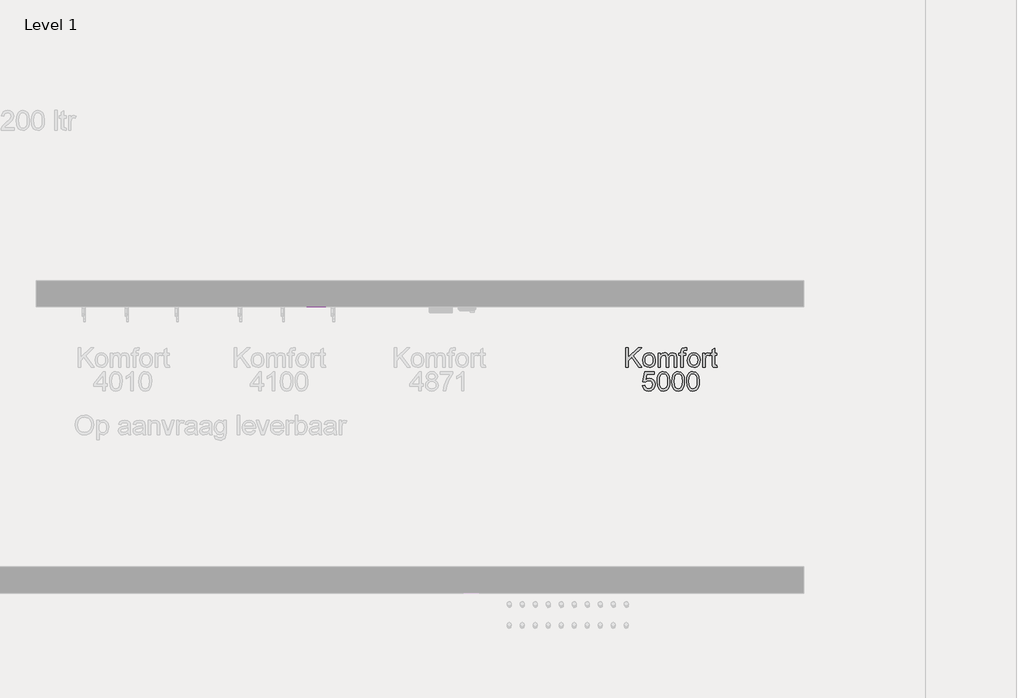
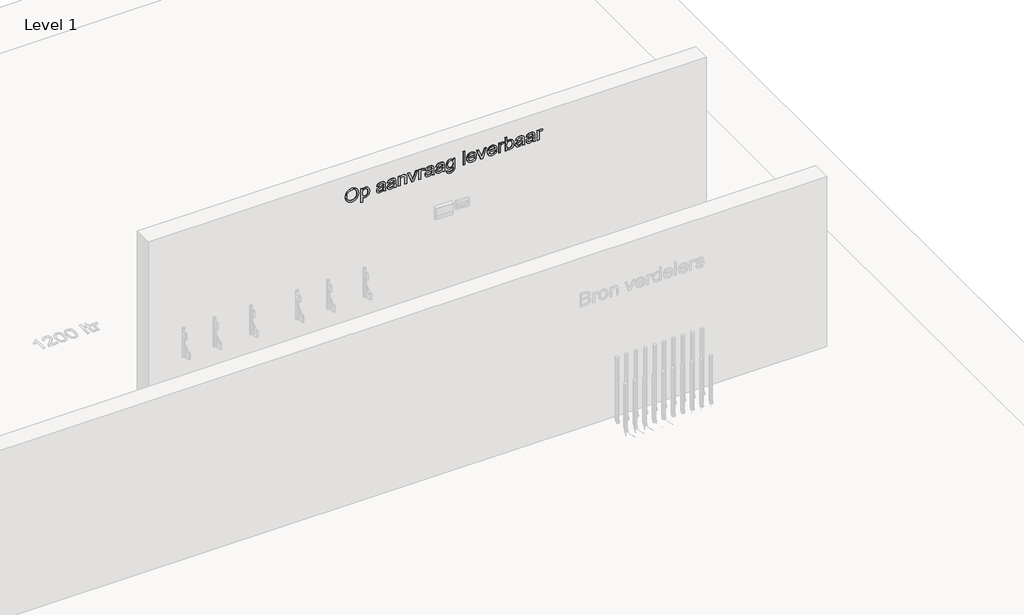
# One storey, part 34 of 34: 2 proxies.
"""IFC4 building model written with IfcOpenShell, lengths in millimetres."""

from ifc_helpers import new_model, si_unit, frame, origin, origin_with_axes, place, context, project, spatial, polyline, outline, extrude, element, save

model = new_model("IFC4")

# Units and contexts
model_context = context("Model", 3, world=origin())
ifc_project = project(units=[si_unit("LENGTHUNIT", "METRE", prefix="MILLI")], contexts=[model_context])

# Site, building, storey
site = spatial("IfcSite", under=ifc_project)
building = spatial("IfcBuilding", under=site)
storey = spatial("IfcBuildingStorey", under=building, Name="Level 1", Elevation=0.0)

# Proxies
placement = place(None, origin())
element("IfcBuildingElementProxy", 1, Name="type", ObjectType="type", at=placement, inside=storey, context=model_context, shape_type="SweptSolid", body=[
    extrude(outline(polyline([(1673.469489, -1023.8485597), (1654.5797655, -1021.7391847), (1636.7086717, -1015.4110597), (1621.1768208, -1004.9903866), (1609.3048256, -990.6033674), (1601.7732751, -973.1334155), (1599.2627583, -953.4639443), (1601.5343929, -934.9347977), (1608.3492967, -917.7127424), (1619.5812679, -903.0282472), (1635.1041044, -892.1117808), (1653.9532631, -885.3374419), (1675.1642006, -883.0793289), (1696.095691, -885.2247616), (1714.6834313, -891.6610597), (1730.1792246, -902.1899058), (1741.8348737, -916.6129828), (1749.1365563, -933.983776), (1751.5704506, -953.3557712), (1746.3871573, -981.6159876), (1730.8372775, -1004.1610597), (1706.1287438, -1018.9266847), (1673.469489, -1023.8485597)]), holes=[polyline([(1673.2892006, -1005.3870212), (1700.9139001, -1001.5378626), (1719.3168448, -989.9903866), (1729.6608953, -973.1063722), (1733.1089121, -953.2475982), (1731.3195491, -938.9552304), (1725.9514602, -926.1502424), (1717.3291645, -915.5357592), (1705.7771813, -907.8149058), (1691.6515804, -903.109377), (1675.3084313, -901.5408674), (1650.8703304, -905.2052304), (1632.7242967, -916.1983193), (1621.4742967, -932.8704948), (1617.7242967, -953.5721174), (1621.438239, -973.976264), (1632.580066, -990.6213962), (1650.1852342, -1001.695615), (1673.2892006, -1005.3870212)])]), frame((0.0, 9784.9863889, 0.0), z_axis=(0.0, 1.0, 0.0), x_axis=(0.0, 0.0, 1.0)), (0.0, 0.0, 1.0), 5.0),
    extrude(outline(polyline([(1560.031989, -860.0024058), (1560.031989, -841.5408674), (1615.9935275, -841.5408674), (1604.0043448, -829.8401462), (1599.2627583, -813.7764443), (1601.0340924, -801.8097977), (1606.3480948, -790.4290885), (1614.9839121, -780.6574539), (1626.720691, -773.5180308), (1640.8417847, -769.1505429), (1656.6305467, -767.6947135), (1685.080066, -772.8509635), (1696.6004987, -779.2512039), (1705.2002583, -788.1394251), (1710.5548256, -799.0558914), (1712.3396813, -811.5408674), (1707.2375179, -828.7764443), (1691.9310275, -841.5408674), (1710.031989, -841.5408674), (1710.031989, -860.0024058), (1560.031989, -860.0024058)]), holes=[polyline([(1654.9358352, -841.5408674), (1671.6801261, -839.4089563), (1683.908191, -833.0132232), (1691.3856549, -823.8500621), (1693.8781429, -813.4158674), (1691.5343929, -803.0222376), (1684.5031429, -794.1971174), (1672.766364, -788.1664683), (1656.3060275, -786.156252), (1639.1335515, -788.2160477), (1627.1353544, -794.3954347), (1620.0770612, -803.4594371), (1617.7242967, -814.1730789), (1619.9959313, -824.7154467), (1626.8108352, -833.5540885), (1638.3853544, -839.5441727), (1654.9358352, -841.5408674)])]), frame((0.0, 9784.9863889, 0.0), z_axis=(0.0, 1.0, 0.0), x_axis=(0.0, 0.0, 1.0)), (0.0, 0.0, 1.0), 5.0),
    extrude(outline(polyline([(1615.4166044, -620.0024058), (1601.5704506, -615.3870212), (1601.5704506, -596.9254828), (1617.0932871, -600.6033674), (1649.1666044, -601.5408674), (1672.1353544, -601.5408674), (1688.2892006, -602.4423097), (1700.8192487, -608.1033674), (1709.0584313, -620.7415885), (1712.3396813, -643.1153866), (1708.625739, -667.4723578), (1698.0608352, -683.5540885), (1680.031989, -691.5408674), (1677.7242967, -673.0793289), (1690.3264602, -664.1730789), (1693.8781429, -645.4951943), (1692.5440083, -633.6141847), (1688.5416044, -625.0865405), (1683.1509794, -621.2734395), (1674.9117967, -620.0024058), (1670.8012198, -620.1105789), (1664.455066, -652.1298097), (1661.6786237, -668.1033674), (1655.6209313, -681.0300501), (1645.0199698, -690.3149058), (1630.4166044, -693.8485597), (1618.0037438, -691.5093169), (1608.0247775, -684.4915885), (1601.4532631, -673.1108794), (1599.2627583, -657.6826943), (1602.9045852, -637.9050501), (1615.4166044, -620.0024058)]), holes=[polyline([(1652.3396813, -620.0024058), (1647.111316, -620.1105789), (1632.8324698, -623.031252), (1622.141364, -635.0745212), (1617.7242967, -653.7524058), (1621.7267006, -669.8882232), (1631.7146813, -675.3870212), (1638.8180467, -672.8629828), (1643.6858352, -665.6694732), (1646.6786237, -649.7860597), (1652.3396813, -620.0024058)])]), frame((0.0, 9784.9863889, 0.0), z_axis=(0.0, 1.0, 0.0), x_axis=(0.0, 0.0, 1.0)), (0.0, 0.0, 1.0), 5.0),
    extrude(outline(polyline([(1615.4166044, -506.9254828), (1601.5704506, -502.3100982), (1601.5704506, -483.8485597), (1617.0932871, -487.5264443), (1649.1666044, -488.4639443), (1672.1353544, -488.4639443), (1688.2892006, -489.3653866), (1700.8192487, -495.0264443), (1709.0584313, -507.6646655), (1712.3396813, -530.0384635), (1708.625739, -554.3954347), (1698.0608352, -570.4771655), (1680.031989, -578.4639443), (1677.7242967, -560.0024058), (1690.3264602, -551.0961558), (1693.8781429, -532.4182712), (1692.5440083, -520.5372616), (1688.5416044, -512.0096174), (1683.1509794, -508.1965164), (1674.9117967, -506.9254828), (1670.8012198, -507.0336558), (1664.455066, -539.0528866), (1661.6786237, -555.0264443), (1655.6209313, -567.953127), (1645.0199698, -577.2379828), (1630.4166044, -580.7716366), (1618.0037438, -578.4323938), (1608.0247775, -571.4146655), (1601.4532631, -560.0339563), (1599.2627583, -544.6057712), (1602.9045852, -524.828127), (1615.4166044, -506.9254828)]), holes=[polyline([(1652.3396813, -506.9254828), (1647.111316, -507.0336558), (1632.8324698, -509.9543289), (1622.141364, -521.9975982), (1617.7242967, -540.6754828), (1621.7267006, -556.8113001), (1631.7146813, -562.3100982), (1638.8180467, -559.7860597), (1643.6858352, -552.5925501), (1646.6786237, -536.7091366), (1652.3396813, -506.9254828)])]), frame((0.0, 9784.9863889, 0.0), z_axis=(0.0, 1.0, 0.0), x_axis=(0.0, 0.0, 1.0)), (0.0, 0.0, 1.0), 5.0),
    extrude(outline(polyline([(1601.5704506, -463.0793289), (1601.5704506, -444.6177905), (1659.1185275, -444.6177905), (1676.1287438, -442.5129227), (1686.6305467, -436.1983193), (1692.0662438, -426.9810717), (1693.8781429, -416.1682712), (1690.6509794, -403.4939924), (1682.0151621, -395.9759635), (1665.6810275, -393.8485597), (1601.5704506, -393.8485597), (1601.5704506, -375.3870212), (1668.1690083, -375.3870212), (1686.017566, -376.3605789), (1699.5932871, -381.8954347), (1708.8240563, -393.7944732), (1712.3396813, -411.2283674), (1707.9767006, -430.5012039), (1694.8877583, -444.6177905), (1710.031989, -444.6177905), (1710.031989, -463.0793289), (1601.5704506, -463.0793289)])), frame((0.0, 9784.9863889, 0.0), z_axis=(0.0, 1.0, 0.0), x_axis=(0.0, 0.0, 1.0)), (0.0, 0.0, 1.0), 5.0),
    extrude(outline(polyline([(1601.5704506, -323.3918289), (1601.5704506, -299.9903866), (1710.031989, -262.3100982), (1710.031989, -281.8533674), (1643.830066, -305.1105789), (1623.205066, -311.9254828), (1645.0560275, -318.8846174), (1710.031989, -341.9975982), (1710.031989, -361.5408674), (1601.5704506, -323.3918289)])), frame((0.0, 9784.9863889, 0.0), z_axis=(0.0, 1.0, 0.0), x_axis=(0.0, 0.0, 1.0)), (0.0, 0.0, 1.0), 5.0),
    extrude(outline(polyline([(1601.5704506, -246.156252), (1601.5704506, -227.6947135), (1658.5776621, -227.6947135), (1680.1401621, -224.7019251), (1690.236316, -218.0492808), (1693.8781429, -207.6105789), (1690.0920852, -194.6298097), (1706.642566, -188.4639443), (1712.3396813, -206.9975982), (1708.7699698, -218.5360597), (1693.986316, -230.0024058), (1710.031989, -230.0024058), (1710.031989, -246.156252), (1601.5704506, -246.156252)])), frame((0.0, 9784.9863889, 0.0), z_axis=(0.0, 1.0, 0.0), x_axis=(0.0, 0.0, 1.0)), (0.0, 0.0, 1.0), 5.0),
    extrude(outline(polyline([(1615.4166044, -107.6947135), (1601.5704506, -103.0793289), (1601.5704506, -84.6177905), (1617.0932871, -88.2956751), (1649.1666044, -89.2331751), (1672.1353544, -89.2331751), (1688.2892006, -90.1346174), (1700.8192487, -95.7956751), (1709.0584313, -108.4338962), (1712.3396813, -130.8076943), (1708.625739, -155.1646655), (1698.0608352, -171.2463962), (1680.031989, -179.2331751), (1677.7242967, -160.7716366), (1690.3264602, -151.8653866), (1693.8781429, -133.187502), (1692.5440083, -121.3064924), (1688.5416044, -112.7788482), (1683.1509794, -108.9657472), (1674.9117967, -107.6947135), (1670.8012198, -107.8028866), (1664.455066, -139.8221174), (1661.6786237, -155.7956751), (1655.6209313, -168.7223578), (1645.0199698, -178.0072135), (1630.4166044, -181.5408674), (1618.0037438, -179.2016246), (1608.0247775, -172.1838962), (1601.4532631, -160.8031871), (1599.2627583, -145.375002), (1602.9045852, -125.5973578), (1615.4166044, -107.6947135)]), holes=[polyline([(1652.3396813, -107.6947135), (1647.111316, -107.8028866), (1632.8324698, -110.7235597), (1622.141364, -122.7668289), (1617.7242967, -141.4447135), (1621.7267006, -157.5805308), (1631.7146813, -163.0793289), (1638.8180467, -160.5552905), (1643.6858352, -153.3617808), (1646.6786237, -137.4783674), (1652.3396813, -107.6947135)])]), frame((0.0, 9784.9863889, 0.0), z_axis=(0.0, 1.0, 0.0), x_axis=(0.0, 0.0, 1.0)), (0.0, 0.0, 1.0), 5.0),
    extrude(outline(polyline([(1615.4166044, 5.3822095), (1601.5704506, 9.9975942), (1601.5704506, 28.4591326), (1617.0932871, 24.781248), (1649.1666044, 23.843748), (1672.1353544, 23.843748), (1688.2892006, 22.9423057), (1700.8192487, 17.281248), (1709.0584313, 4.6430268), (1712.3396813, -17.7307712), (1708.625739, -42.0877424), (1698.0608352, -58.1694732), (1680.031989, -66.156252), (1677.7242967, -47.6947135), (1690.3264602, -38.7884635), (1693.8781429, -20.1105789), (1692.5440083, -8.2295693), (1688.5416044, 0.2980749), (1683.1509794, 4.1111759), (1674.9117967, 5.3822095), (1670.8012198, 5.2740365), (1664.455066, -26.7451943), (1661.6786237, -42.718752), (1655.6209313, -55.6454347), (1645.0199698, -64.9302905), (1630.4166044, -68.4639443), (1618.0037438, -66.1247015), (1608.0247775, -59.1069732), (1601.4532631, -47.726264), (1599.2627583, -32.2980789), (1602.9045852, -12.5204347), (1615.4166044, 5.3822095)]), holes=[polyline([(1652.3396813, 5.3822095), (1647.111316, 5.2740365), (1632.8324698, 2.3533634), (1622.141364, -9.6899058), (1617.7242967, -28.3677905), (1621.7267006, -44.5036078), (1631.7146813, -50.0024058), (1638.8180467, -47.4783674), (1643.6858352, -40.2848578), (1646.6786237, -24.4014443), (1652.3396813, 5.3822095)])]), frame((0.0, 9784.9863889, 0.0), z_axis=(0.0, 1.0, 0.0), x_axis=(0.0, 0.0, 1.0)), (0.0, 0.0, 1.0), 5.0),
    extrude(outline(polyline([(1592.3396813, 44.6129788), (1577.1729145, 47.2406831), (1566.360114, 55.9170653), (1559.8832511, 69.4432071), (1557.7242967, 86.6201903), (1559.2567487, 101.3632793), (1563.8541044, 113.5733153), (1571.0881789, 123.0429668), (1580.5307871, 129.5649018), (1594.7690684, 133.3509595), (1616.3901621, 134.6129788), (1710.031989, 134.6129788), (1710.031989, 116.1514403), (1696.1858352, 116.1514403), (1708.3012198, 102.8731951), (1712.3396813, 86.4038442), (1710.5548256, 73.7611158), (1705.2002583, 62.8761999), (1696.5689482, 54.0510797), (1684.953864, 47.5877384), (1656.3420852, 42.3052865), (1635.4105948, 45.2484956), (1617.688239, 54.078123), (1605.5998977, 68.2713321), (1601.5704506, 87.3052865), (1605.031989, 103.1526422), (1615.4166044, 116.1514403), (1593.8901621, 114.8894211), (1580.8372775, 105.874998), (1576.1858352, 86.9807672), (1580.2964121, 69.0600942), (1590.031989, 63.0745172), (1592.3396813, 44.6129788)]), holes=[polyline([(1657.6041044, 60.7668249), (1673.383852, 62.7635196), (1684.7375179, 68.7536038), (1691.5929866, 77.5922456), (1693.8781429, 88.1346134), (1691.5569289, 98.8707913), (1684.5932871, 107.9302865), (1673.0683472, 114.0961518), (1657.063239, 116.1514403), (1640.4676862, 114.1547456), (1628.9742967, 108.1646615), (1622.267566, 99.2358754), (1620.031989, 88.4230749), (1622.2810876, 77.5291446), (1629.0283833, 68.6454307), (1640.6705107, 62.7364764), (1657.6041044, 60.7668249)])]), frame((0.0, 9784.9863889, 0.0), z_axis=(0.0, 1.0, 0.0), x_axis=(0.0, 0.0, 1.0)), (0.0, 0.0, 1.0), 5.0),
    extrude(outline(polyline([(238.4591326, 9784.9863889), (219.9975942, 9784.9863889), (219.9975942, 9789.9863889), (238.4591326, 9789.9863889), (238.4591326, 9784.9863889)])), frame((0.0, 0.0, 1601.5704506), z_axis=(0.0, 0.0, 1.0), x_axis=(1.0, 0.0, 0.0)), (0.0, 0.0, 1.0), 147.6923077),
    extrude(outline(polyline([(1633.8781429, 342.0889403), (1621.5824698, 330.1899018), (1617.7242967, 312.0889403), (1619.8066285, 299.0225341), (1626.0536237, 288.3088922), (1636.2128785, 280.8855148), (1650.031989, 277.6899018), (1650.031989, 360.6586518), (1655.0079506, 360.7668249), (1679.2116765, 357.2647216), (1697.3036237, 346.7584115), (1708.5806669, 330.7352744), (1712.3396813, 310.6826903), (1708.5716525, 289.9855749), (1697.267566, 273.5432672), (1679.1395612, 262.8070893), (1654.8997775, 259.2283634), (1631.4487559, 262.7710317), (1613.8841525, 273.3990365), (1602.9181068, 290.0667047), (1599.2627583, 311.7283634), (1601.3811477, 329.2028225), (1607.736316, 343.2608153), (1617.9316285, 353.6679668), (1631.5704506, 360.1899018), (1633.8781429, 342.0889403)]), holes=[polyline([(1668.4935275, 277.6899018), (1678.9006789, 280.7232552), (1686.9730948, 287.8761999), (1692.1518809, 298.1661639), (1693.8781429, 310.6105749), (1691.7146813, 324.1502384), (1685.2242967, 334.9134595), (1678.2471333, 339.8082913), (1668.4935275, 342.3052865), (1668.4935275, 277.6899018)])]), frame((0.0, 9784.9863889, 0.0), z_axis=(0.0, 1.0, 0.0), x_axis=(0.0, 0.0, 1.0)), (0.0, 0.0, 1.0), 5.0),
    extrude(outline(polyline([(1601.5704506, 405.8389403), (1601.5704506, 429.2403826), (1710.031989, 466.9206711), (1710.031989, 447.3774018), (1643.830066, 424.1201903), (1623.205066, 417.3052865), (1645.0560275, 410.3461518), (1710.031989, 387.2331711), (1710.031989, 367.6899018), (1601.5704506, 405.8389403)])), frame((0.0, 9784.9863889, 0.0), z_axis=(0.0, 1.0, 0.0), x_axis=(0.0, 0.0, 1.0)), (0.0, 0.0, 1.0), 5.0),
    extrude(outline(polyline([(1633.8781429, 559.0120172), (1621.5824698, 547.1129788), (1617.7242967, 529.0120172), (1619.8066285, 515.945611), (1626.0536237, 505.2319692), (1636.2128785, 497.8085918), (1650.031989, 494.6129788), (1650.031989, 577.5817288), (1655.0079506, 577.6899018), (1679.2116765, 574.1877985), (1697.3036237, 563.6814884), (1708.5806669, 547.6583514), (1712.3396813, 527.6057672), (1708.5716525, 506.9086518), (1697.267566, 490.4663442), (1679.1395612, 479.7301663), (1654.8997775, 476.1514403), (1631.4487559, 479.6941086), (1613.8841525, 490.3221134), (1602.9181068, 506.9897817), (1599.2627583, 528.6514403), (1601.3811477, 546.1258994), (1607.736316, 560.1838922), (1617.9316285, 570.5910437), (1631.5704506, 577.1129788), (1633.8781429, 559.0120172)]), holes=[polyline([(1668.4935275, 494.6129788), (1678.9006789, 497.6463321), (1686.9730948, 504.7992768), (1692.1518809, 515.0892408), (1693.8781429, 527.5336518), (1691.7146813, 541.0733153), (1685.2242967, 551.8365365), (1678.2471333, 556.7313682), (1668.4935275, 559.2283634), (1668.4935275, 494.6129788)])]), frame((0.0, 9784.9863889, 0.0), z_axis=(0.0, 1.0, 0.0), x_axis=(0.0, 0.0, 1.0)), (0.0, 0.0, 1.0), 5.0),
    extrude(outline(polyline([(1601.5704506, 596.1514403), (1601.5704506, 614.6129788), (1658.5776621, 614.6129788), (1680.1401621, 617.6057672), (1690.236316, 624.2584115), (1693.8781429, 634.6971134), (1690.0920852, 647.6778826), (1706.642566, 653.843748), (1712.3396813, 635.3100942), (1708.7699698, 623.7716326), (1693.986316, 612.3052865), (1710.031989, 612.3052865), (1710.031989, 596.1514403), (1601.5704506, 596.1514403)])), frame((0.0, 9784.9863889, 0.0), z_axis=(0.0, 1.0, 0.0), x_axis=(0.0, 0.0, 1.0)), (0.0, 0.0, 1.0), 5.0),
    extrude(outline(polyline([(1601.5704506, 683.843748), (1618.8420852, 683.843748), (1604.15759, 696.3106951), (1599.2627583, 712.7259595), (1603.0578304, 729.929986), (1614.4430467, 744.4747576), (1632.7783833, 754.3861158), (1657.423816, 757.6899018), (1679.4370371, 754.4987961), (1697.0151621, 745.6826903), (1708.3192487, 731.3317288), (1712.3396813, 712.8341326), (1707.8775419, 696.7704307), (1694.4911237, 683.843748), (1749.2627583, 683.843748), (1749.2627583, 665.3822095), (1601.5704506, 665.3822095), (1601.5704506, 683.843748)]), holes=[polyline([(1656.5584313, 683.843748), (1672.5590323, 685.9260797), (1684.2867967, 692.1730749), (1691.4803063, 701.2776422), (1693.8781429, 711.9326903), (1691.5614362, 722.4209716), (1684.611316, 731.2415845), (1672.8024217, 737.2316687), (1655.9093929, 739.2283634), (1639.2597535, 737.1460317), (1627.3156429, 730.8990365), (1620.1221333, 721.7944692), (1617.7242967, 711.1394211), (1620.9785035, 698.5643009), (1630.7411237, 688.8918249), (1641.1617967, 685.1057672), (1656.5584313, 683.843748)])]), frame((0.0, 9784.9863889, 0.0), z_axis=(0.0, 1.0, 0.0), x_axis=(0.0, 0.0, 1.0)), (0.0, 0.0, 1.0), 5.0),
    extrude(outline(polyline([(1615.4166044, 847.6899018), (1601.5704506, 852.3052865), (1601.5704506, 870.7668249), (1617.0932871, 867.0889403), (1649.1666044, 866.1514403), (1672.1353544, 866.1514403), (1688.2892006, 865.249998), (1700.8192487, 859.5889403), (1709.0584313, 846.9507192), (1712.3396813, 824.5769211), (1708.625739, 800.2199499), (1698.0608352, 784.1382192), (1680.031989, 776.1514403), (1677.7242967, 794.6129788), (1690.3264602, 803.5192288), (1693.8781429, 822.1971134), (1692.5440083, 834.078123), (1688.5416044, 842.6057672), (1683.1509794, 846.4188682), (1674.9117967, 847.6899018), (1670.8012198, 847.5817288), (1664.455066, 815.562498), (1661.6786237, 799.5889403), (1655.6209313, 786.6622576), (1645.0199698, 777.3774018), (1630.4166044, 773.843748), (1618.0037438, 776.1829908), (1608.0247775, 783.2007192), (1601.4532631, 794.5814283), (1599.2627583, 810.0096134), (1602.9045852, 829.7872576), (1615.4166044, 847.6899018)]), holes=[polyline([(1652.3396813, 847.6899018), (1647.111316, 847.5817288), (1632.8324698, 844.6610557), (1622.141364, 832.6177865), (1617.7242967, 813.9399018), (1621.7267006, 797.8040845), (1631.7146813, 792.3052865), (1638.8180467, 794.8293249), (1643.6858352, 802.0228345), (1646.6786237, 817.906248), (1652.3396813, 847.6899018)])]), frame((0.0, 9784.9863889, 0.0), z_axis=(0.0, 1.0, 0.0), x_axis=(0.0, 0.0, 1.0)), (0.0, 0.0, 1.0), 5.0),
    extrude(outline(polyline([(1615.4166044, 960.7668249), (1601.5704506, 965.3822095), (1601.5704506, 983.843748), (1617.0932871, 980.1658634), (1649.1666044, 979.2283634), (1672.1353544, 979.2283634), (1688.2892006, 978.3269211), (1700.8192487, 972.6658634), (1709.0584313, 960.0276422), (1712.3396813, 937.6538442), (1708.625739, 913.296873), (1698.0608352, 897.2151422), (1680.031989, 889.2283634), (1677.7242967, 907.6899018), (1690.3264602, 916.5961518), (1693.8781429, 935.2740365), (1692.5440083, 947.1550461), (1688.5416044, 955.6826903), (1683.1509794, 959.4957913), (1674.9117967, 960.7668249), (1670.8012198, 960.6586518), (1664.455066, 928.6394211), (1661.6786237, 912.6658634), (1655.6209313, 899.7391807), (1645.0199698, 890.4543249), (1630.4166044, 886.9206711), (1618.0037438, 889.2599139), (1608.0247775, 896.2776422), (1601.4532631, 907.6583514), (1599.2627583, 923.0865365), (1602.9045852, 942.8641807), (1615.4166044, 960.7668249)]), holes=[polyline([(1652.3396813, 960.7668249), (1647.111316, 960.6586518), (1632.8324698, 957.7379788), (1622.141364, 945.6947095), (1617.7242967, 927.0168249), (1621.7267006, 910.8810076), (1631.7146813, 905.3822095), (1638.8180467, 907.906248), (1643.6858352, 915.0997576), (1646.6786237, 930.9831711), (1652.3396813, 960.7668249)])]), frame((0.0, 9784.9863889, 0.0), z_axis=(0.0, 1.0, 0.0), x_axis=(0.0, 0.0, 1.0)), (0.0, 0.0, 1.0), 5.0),
    extrude(outline(polyline([(1601.5704506, 1004.6129788), (1601.5704506, 1023.0745172), (1658.5776621, 1023.0745172), (1680.1401621, 1026.0673057), (1690.236316, 1032.7199499), (1693.8781429, 1043.1586518), (1690.0920852, 1056.1394211), (1706.642566, 1062.3052865), (1712.3396813, 1043.7716326), (1708.7699698, 1032.2331711), (1693.986316, 1020.7668249), (1710.031989, 1020.7668249), (1710.031989, 1004.6129788), (1601.5704506, 1004.6129788)])), frame((0.0, 9784.9863889, 0.0), z_axis=(0.0, 1.0, 0.0), x_axis=(0.0, 0.0, 1.0)), (0.0, 0.0, 1.0), 5.0),
])
element("IfcBuildingElementProxy", 2, Name="type", ObjectType="type", at=placement, inside=storey, context=model_context, shape_type="SweptSolid", body=[
    extrude(outline(polyline([(1429.0548574, 9326.140235), (1429.0548574, 9473.8325427), (1447.5163959, 9473.8325427), (1447.5163959, 9401.5368697), (1523.2375497, 9473.8325427), (1549.0548574, 9473.8325427), (1485.4851459, 9413.1113889), (1551.3625497, 9326.140235), (1528.7904343, 9326.140235), (1472.3962036, 9400.6354273), (1447.5163959, 9376.9094658), (1447.5163959, 9326.140235), (1429.0548574, 9326.140235)])), origin_with_axes(), (0.0, 0.0, 1.0), 5.0),
    extrude(outline(polyline([(1558.2856267, 9380.3710043), (1562.2790161, 9406.5218456), (1574.2591843, 9424.9022543), (1589.060867, 9433.9076629), (1606.7832228, 9436.9094658), (1626.1777541, 9433.2541173), (1641.6690401, 9422.2880716), (1651.8237877, 9404.8767134), (1655.2087036, 9381.8854273), (1653.7123093, 9363.234586), (1649.2231267, 9349.0368697), (1641.8718646, 9338.4043576), (1631.7892324, 9330.4491293), (1619.8135714, 9325.4866894), (1606.7832228, 9323.8325427), (1587.1543166, 9327.4743697), (1571.6810593, 9338.3998504), (1561.6344848, 9356.1762927), (1558.2856267, 9380.3710043)]), holes=[polyline([(1576.7471651, 9380.407062), (1578.8835834, 9363.6988288), (1585.2928382, 9351.7952831), (1594.9382709, 9344.6693817), (1606.7832228, 9342.2940812), (1618.5740882, 9344.6829033), (1628.201492, 9351.8493697), (1634.6107468, 9363.9106677), (1636.7471651, 9380.983985), (1634.5972252, 9397.2054394), (1628.1474055, 9408.9467254), (1618.50648, 9416.0726269), (1606.7832228, 9418.4479273), (1594.9382709, 9416.0816413), (1585.2928382, 9408.9827831), (1578.8835834, 9397.1062807), (1576.7471651, 9380.407062)])]), origin_with_axes(), (0.0, 0.0, 1.0), 5.0),
    extrude(outline(polyline([(1675.9779343, 9326.140235), (1675.9779343, 9434.6017735), (1694.4394728, 9434.6017735), (1694.4394728, 9416.7532158), (1707.1317805, 9431.37461), (1725.1966843, 9436.9094658), (1735.4641122, 9435.4987086), (1743.6942805, 9431.266437), (1753.8625497, 9415.4551389), (1768.2675978, 9431.5458841), (1786.4587036, 9436.9094658), (1800.3364079, 9434.6783961), (1810.5993286, 9427.985187), (1816.9409752, 9416.6495499), (1819.0548574, 9400.4911966), (1819.0548574, 9326.140235), (1800.593319, 9326.140235), (1800.593319, 9392.5585043), (1798.8805786, 9407.9731677), (1792.6786555, 9415.563312), (1782.1317805, 9418.4479273), (1772.1302781, 9416.5999706), (1763.9767324, 9411.0561004), (1758.5545569, 9401.437711), (1756.7471651, 9387.3661966), (1756.7471651, 9326.140235), (1738.2856267, 9326.140235), (1738.2856267, 9394.6137927), (1734.0127901, 9412.4984081), (1728.3742685, 9416.9605475), (1720.0043767, 9418.4479273), (1706.3385113, 9414.4815812), (1697.2519728, 9402.8710043), (1694.4394728, 9380.8397543), (1694.4394728, 9326.140235), (1675.9779343, 9326.140235)])), origin_with_axes(), (0.0, 0.0, 1.0), 5.0),
    extrude(outline(polyline([(1851.3625497, 9326.140235), (1851.3625497, 9416.140235), (1835.2087036, 9416.140235), (1835.2087036, 9434.6017735), (1851.3625497, 9434.6017735), (1851.3625497, 9445.5272543), (1853.3096651, 9460.9238889), (1862.7567805, 9471.921485), (1881.3625497, 9476.140235), (1898.201492, 9474.1210043), (1895.4971651, 9456.813312), (1884.8601459, 9457.6786966), (1873.2315401, 9454.6137927), (1869.8240882, 9443.1835043), (1869.8240882, 9434.6017735), (1890.593319, 9434.6017735), (1890.593319, 9416.140235), (1869.8240882, 9416.140235), (1869.8240882, 9326.140235), (1851.3625497, 9326.140235)])), origin_with_axes(), (0.0, 0.0, 1.0), 5.0),
    extrude(outline(polyline([(1902.1317805, 9380.3710043), (1906.1251699, 9406.5218456), (1918.1053382, 9424.9022543), (1932.9070209, 9433.9076629), (1950.6293767, 9436.9094658), (1970.0239079, 9433.2541173), (1985.515194, 9422.2880716), (1995.6699416, 9404.8767134), (1999.0548574, 9381.8854273), (1997.5584632, 9363.234586), (1993.0692805, 9349.0368697), (1985.7180185, 9338.4043576), (1975.6353863, 9330.4491293), (1963.6597252, 9325.4866894), (1950.6293767, 9323.8325427), (1931.0004704, 9327.4743697), (1915.5272132, 9338.3998504), (1905.4806387, 9356.1762927), (1902.1317805, 9380.3710043)]), holes=[polyline([(1920.593319, 9380.407062), (1922.7297372, 9363.6988288), (1929.138992, 9351.7952831), (1938.7844247, 9344.6693817), (1950.6293767, 9342.2940812), (1962.420242, 9344.6829033), (1972.0476459, 9351.8493697), (1978.4569007, 9363.9106677), (1980.593319, 9380.983985), (1978.4433791, 9397.2054394), (1971.9935593, 9408.9467254), (1962.3526339, 9416.0726269), (1950.6293767, 9418.4479273), (1938.7844247, 9416.0816413), (1929.138992, 9408.9827831), (1922.7297372, 9397.1062807), (1920.593319, 9380.407062)])]), origin_with_axes(), (0.0, 0.0, 1.0), 5.0),
    extrude(outline(polyline([(2019.8240882, 9326.140235), (2019.8240882, 9434.6017735), (2035.9779343, 9434.6017735), (2035.9779343, 9418.5561004), (2047.4442805, 9433.3397543), (2058.982742, 9436.9094658), (2077.5163959, 9431.2123504), (2071.3505305, 9414.6618697), (2058.3697613, 9418.4479273), (2047.9310593, 9414.8061004), (2041.2784151, 9404.7099466), (2038.2856267, 9383.1474466), (2038.2856267, 9326.140235), (2019.8240882, 9326.140235)])), origin_with_axes(), (0.0, 0.0, 1.0), 5.0),
    extrude(outline(polyline([(2128.2856267, 9341.5368697), (2130.593319, 9325.5993697), (2116.7832228, 9323.8325427), (2101.3144728, 9326.8974466), (2093.5981267, 9334.938312), (2091.3625497, 9355.8878312), (2091.3625497, 9416.140235), (2077.5163959, 9416.140235), (2077.5163959, 9434.6017735), (2091.3625497, 9434.6017735), (2091.3625497, 9460.9599466), (2109.8240882, 9471.813312), (2109.8240882, 9434.6017735), (2128.2856267, 9434.6017735), (2128.2856267, 9416.140235), (2109.8240882, 9416.140235), (2109.8240882, 9356.4286966), (2110.7976459, 9346.9094658), (2113.952694, 9343.5380716), (2120.2447613, 9342.2940812), (2128.2856267, 9341.5368697)])), origin_with_axes(), (0.0, 0.0, 1.0), 5.0),
    extrude(outline(polyline([(1555.9779343, 9183.063312), (1574.4394728, 9185.3710043), (1577.8288959, 9174.2877711), (1583.7423574, 9166.3505716), (1592.1528142, 9161.5774346), (1603.0332228, 9159.9863889), (1616.2663959, 9162.1994298), (1626.1822613, 9168.8385523), (1632.3751699, 9179.1375307), (1634.4394728, 9192.3301389), (1632.5058791, 9204.7520139), (1626.7050978, 9214.2532158), (1616.9920569, 9220.2838648), (1603.3216843, 9222.2940812), (1587.1137517, 9219.0849466), (1576.7471651, 9210.7556197), (1558.2856267, 9213.063312), (1574.4394728, 9289.2171581), (1645.9779343, 9289.2171581), (1645.9779343, 9270.7556197), (1589.3673574, 9270.7556197), (1581.4707228, 9230.0825427), (1594.6588238, 9238.0873504), (1608.4779343, 9240.7556197), (1625.7270329, 9237.4473264), (1640.046444, 9227.5224466), (1649.6873694, 9212.3962447), (1652.9010113, 9193.483985), (1650.0073815, 9175.0224466), (1641.326492, 9159.2291773), (1624.7038959, 9145.9509322), (1602.9611074, 9141.5248504), (1584.8285954, 9144.3689009), (1570.3829824, 9152.9010523), (1560.4806387, 9166.1297182), (1555.9779343, 9183.063312)])), origin_with_axes(), (0.0, 0.0, 1.0), 5.0),
    extrude(outline(polyline([(1669.0548574, 9216.4887927), (1670.4115281, 9240.1291173), (1674.4815401, 9258.9827831), (1681.2243286, 9273.3382519), (1690.5993286, 9283.483985), (1702.6741483, 9289.5146341), (1717.5163959, 9291.5248504), (1739.0788959, 9286.765235), (1753.9707228, 9273.0452831), (1762.624569, 9251.1943216), (1765.9779343, 9216.4887927), (1764.6347853, 9192.9836846), (1760.6053382, 9174.1750908), (1753.9031146, 9159.8061004), (1744.5416363, 9149.6198023), (1732.4397733, 9143.5485884), (1717.5163959, 9141.5248504), (1698.3337036, 9145.0404754), (1683.7663959, 9155.5873504), (1672.732742, 9180.5663168), (1669.0548574, 9216.4887927)]), holes=[polyline([(1687.5163959, 9216.5248504), (1689.6798574, 9187.4848865), (1696.170242, 9170.6774947), (1705.8337036, 9162.6591653), (1717.5163959, 9159.9863889), (1729.1990882, 9162.6681798), (1738.8625497, 9170.7135523), (1745.3529343, 9187.5299586), (1747.5163959, 9216.5248504), (1745.4250497, 9244.9112687), (1739.1510113, 9261.8493697), (1729.5055786, 9270.2598264), (1717.3000497, 9273.063312), (1705.7435593, 9270.59336), (1696.4587036, 9263.1835043), (1689.7519728, 9245.1907158), (1687.5163959, 9216.5248504)])]), origin_with_axes(), (0.0, 0.0, 1.0), 5.0),
    extrude(outline(polyline([(1782.1317805, 9216.4887927), (1783.4884512, 9240.1291173), (1787.5584632, 9258.9827831), (1794.3012517, 9273.3382519), (1803.6762517, 9283.483985), (1815.7510714, 9289.5146341), (1830.593319, 9291.5248504), (1852.155819, 9286.765235), (1867.0476459, 9273.0452831), (1875.701492, 9251.1943216), (1879.0548574, 9216.4887927), (1877.7117084, 9192.9836846), (1873.6822613, 9174.1750908), (1866.9800377, 9159.8061004), (1857.6185593, 9149.6198023), (1845.5166964, 9143.5485884), (1830.593319, 9141.5248504), (1811.4106267, 9145.0404754), (1796.843319, 9155.5873504), (1785.8096651, 9180.5663168), (1782.1317805, 9216.4887927)]), holes=[polyline([(1800.593319, 9216.5248504), (1802.7567805, 9187.4848865), (1809.2471651, 9170.6774947), (1818.9106267, 9162.6591653), (1830.593319, 9159.9863889), (1842.2760113, 9162.6681798), (1851.9394728, 9170.7135523), (1858.4298574, 9187.5299586), (1860.593319, 9216.5248504), (1858.5019728, 9244.9112687), (1852.2279343, 9261.8493697), (1842.5825017, 9270.2598264), (1830.3769728, 9273.063312), (1818.8204824, 9270.59336), (1809.5356267, 9263.1835043), (1802.8288959, 9245.1907158), (1800.593319, 9216.5248504)])]), origin_with_axes(), (0.0, 0.0, 1.0), 5.0),
    extrude(outline(polyline([(1895.2087036, 9216.4887927), (1896.5653743, 9240.1291173), (1900.6353863, 9258.9827831), (1907.3781747, 9273.3382519), (1916.7531747, 9283.483985), (1928.8279944, 9289.5146341), (1943.670242, 9291.5248504), (1965.232742, 9286.765235), (1980.124569, 9273.0452831), (1988.7784151, 9251.1943216), (1992.1317805, 9216.4887927), (1990.7886315, 9192.9836846), (1986.7591843, 9174.1750908), (1980.0569608, 9159.8061004), (1970.6954824, 9149.6198023), (1958.5936194, 9143.5485884), (1943.670242, 9141.5248504), (1924.4875497, 9145.0404754), (1909.920242, 9155.5873504), (1898.8865882, 9180.5663168), (1895.2087036, 9216.4887927)]), holes=[polyline([(1913.670242, 9216.5248504), (1915.8337036, 9187.4848865), (1922.3240882, 9170.6774947), (1931.9875497, 9162.6591653), (1943.670242, 9159.9863889), (1955.3529343, 9162.6681798), (1965.0163959, 9170.7135523), (1971.5067805, 9187.5299586), (1973.670242, 9216.5248504), (1971.5788959, 9244.9112687), (1965.3048574, 9261.8493697), (1955.6594247, 9270.2598264), (1943.4538959, 9273.063312), (1931.8974055, 9270.59336), (1922.6125497, 9263.1835043), (1915.905819, 9245.1907158), (1913.670242, 9216.5248504)])]), origin_with_axes(), (0.0, 0.0, 1.0), 5.0),
])

save(model, "model.ifc")
